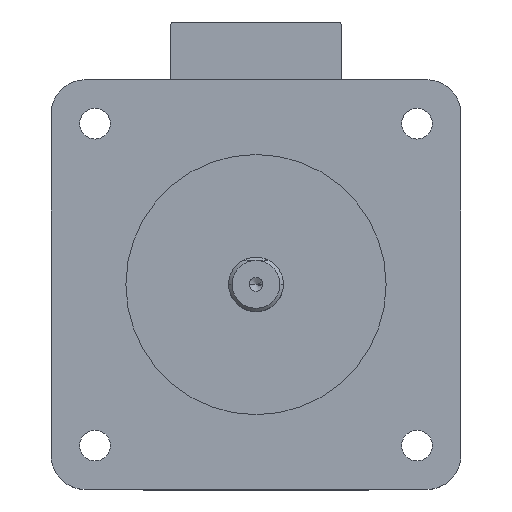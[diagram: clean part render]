
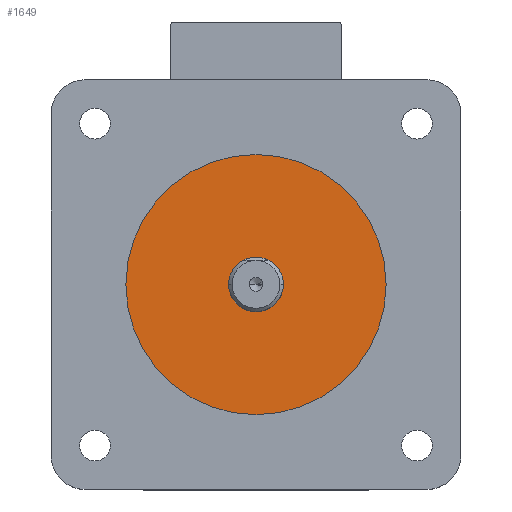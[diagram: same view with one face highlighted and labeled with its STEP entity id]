
A CAD part, top view. The second image highlights one B-rep face of the part: STEP entity #1649.
In plain terms, the highlighted planar face has unit normal (0, 0, 1).
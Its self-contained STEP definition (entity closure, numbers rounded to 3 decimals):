
#160 = DIRECTION ( 'NONE',  ( 1., 0., 0. ) ) ;
#204 = CARTESIAN_POINT ( 'NONE',  ( 0., 0., 2.5 ) ) ;
#214 = CARTESIAN_POINT ( 'NONE',  ( -19.05, 0., 2.5 ) ) ;
#224 = DIRECTION ( 'NONE',  ( 0., 0., -1. ) ) ;
#329 = AXIS2_PLACEMENT_3D ( 'NONE', #1251, #1247, #1235 ) ;
#334 = CARTESIAN_POINT ( 'NONE',  ( -4., 0., 2.5 ) ) ;
#336 = AXIS2_PLACEMENT_3D ( 'NONE', #1281, #1275, #1270 ) ;
#558 = CIRCLE ( 'NONE', #587, 19.05 ) ;
#587 = AXIS2_PLACEMENT_3D ( 'NONE', #4198, #4194, #4185 ) ;
#597 = AXIS2_PLACEMENT_3D ( 'NONE', #204, #224, #160 ) ;
#646 = CARTESIAN_POINT ( 'NONE',  ( 4., 0., 2.5 ) ) ;
#1235 = DIRECTION ( 'NONE',  ( 1., 0., 0. ) ) ;
#1247 = DIRECTION ( 'NONE',  ( 0., 0., -1. ) ) ;
#1251 = CARTESIAN_POINT ( 'NONE',  ( 0., 0., 2.5 ) ) ;
#1270 = DIRECTION ( 'NONE',  ( 1., 0., 0. ) ) ;
#1275 = DIRECTION ( 'NONE',  ( 0., 0., 1. ) ) ;
#1281 = CARTESIAN_POINT ( 'NONE',  ( 0., 0., 2.5 ) ) ;
#1301 = AXIS2_PLACEMENT_3D ( 'NONE', #1486, #1439, #1434 ) ;
#1434 = DIRECTION ( 'NONE',  ( 1., 0., 0. ) ) ;
#1439 = DIRECTION ( 'NONE',  ( 0., 0., 1. ) ) ;
#1468 = PLANE ( 'NONE',  #1301 ) ;
#1486 = CARTESIAN_POINT ( 'NONE',  ( 0., 0., 2.5 ) ) ;
#1649 = ADVANCED_FACE ( 'NONE', ( #3316, #3923 ), #1468, .T. ) ;
#2140 = CIRCLE ( 'NONE', #336, 19.05 ) ;
#2220 = EDGE_LOOP ( 'NONE', ( #3183, #3227 ) ) ;
#2325 = EDGE_LOOP ( 'NONE', ( #3172, #3177 ) ) ;
#2478 = VERTEX_POINT ( 'NONE', #3164 ) ;
#2536 = CIRCLE ( 'NONE', #597, 4. ) ;
#2777 = EDGE_CURVE ( 'NONE', #4140, #4030, #2536, .T. ) ;
#2816 = EDGE_CURVE ( 'NONE', #2478, #4143, #558, .T. ) ;
#3164 = CARTESIAN_POINT ( 'NONE',  ( 19.05, 0., 2.5 ) ) ;
#3172 = ORIENTED_EDGE ( 'NONE', *, *, #3372, .T. ) ;
#3177 = ORIENTED_EDGE ( 'NONE', *, *, #2816, .T. ) ;
#3183 = ORIENTED_EDGE ( 'NONE', *, *, #2777, .T. ) ;
#3227 = ORIENTED_EDGE ( 'NONE', *, *, #3377, .T. ) ;
#3316 = FACE_OUTER_BOUND ( 'NONE', #2325, .T. ) ;
#3372 = EDGE_CURVE ( 'NONE', #4143, #2478, #2140, .T. ) ;
#3377 = EDGE_CURVE ( 'NONE', #4030, #4140, #3725, .T. ) ;
#3725 = CIRCLE ( 'NONE', #329, 4. ) ;
#3923 = FACE_BOUND ( 'NONE', #2220, .T. ) ;
#4030 = VERTEX_POINT ( 'NONE', #646 ) ;
#4140 = VERTEX_POINT ( 'NONE', #334 ) ;
#4143 = VERTEX_POINT ( 'NONE', #214 ) ;
#4185 = DIRECTION ( 'NONE',  ( 1., 0., 0. ) ) ;
#4194 = DIRECTION ( 'NONE',  ( 0., 0., 1. ) ) ;
#4198 = CARTESIAN_POINT ( 'NONE',  ( 0., 0., 2.5 ) ) ;
